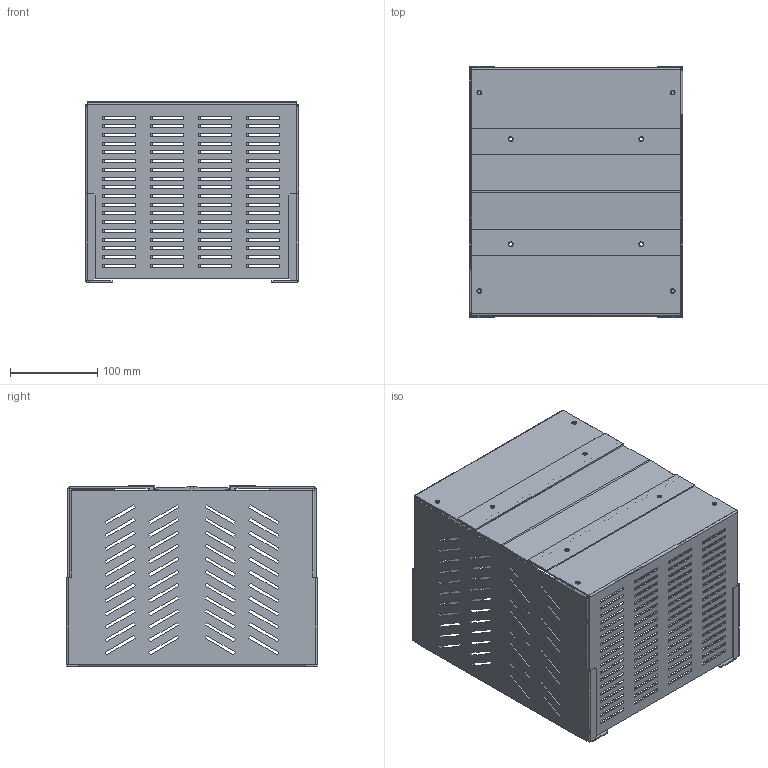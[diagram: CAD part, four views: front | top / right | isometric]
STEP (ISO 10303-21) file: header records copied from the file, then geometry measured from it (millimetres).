
FILE_DESCRIPTION(('CAx-IF Rec.Pracs.---Model Styling and Organization---1.2---2011-12-15','CAx-IF Rec.Pracs.---Geometric and Assembly Validation Properties---4.1---2014-06-16','CAx-IF Rec.Pracs.---PMI Polyline Presentation---2.0---2013-05-24'),'2;1');
FILE_NAME('R5BCB30016.stp','2021-05-05T15:03:29+03:00',(''),(''),'STEP Interface 4.4 by CT CoreTechnologie','3D_Evolution4.4 by CT CoreTechnologie','');
FILE_SCHEMA(('AUTOMOTIVE_DESIGN { 1 0 10303 214 1 1 1 1 }'));
Length unit declared in the file: millimetre
Products named in the file (7): R5BCB30016; R5IB_R5IB12(1); R5IB aluminium_-01; R5IB brush; RB.0579.00.00.1_-02; R5IB_R5IB12(2); RB.0577.00.00.1_-02
Assembly tree (10 placements, depth 3):
  R5BCB30016
    R5IB_R5IB12(1)
      R5IB aluminium_-01
      R5IB brush
    RB.0579.00.00.1_-02  x2
    R5IB_R5IB12(2)
      R5IB aluminium_-01
      R5IB brush
    RB.0577.00.00.1_-02  x2
Bounding box: 245 x 288.2 x 207.1 mm (x, y, z)
Surface area: 621035.5 mm2 (no closed solid volume)
Topology: 0 solids, 10 shells, 1232 faces, 3564 edges, 2352 vertices
Faces by surface type: plane 1164, cylinder 68
Entity records: 20738 total; most frequent: CARTESIAN_POINT 3600, ORIENTED_EDGE 3564, DIRECTION 3102, EDGE_CURVE 1782, VECTOR 1714, LINE 1714, VERTEX_POINT 1176, EDGE_LOOP 868
